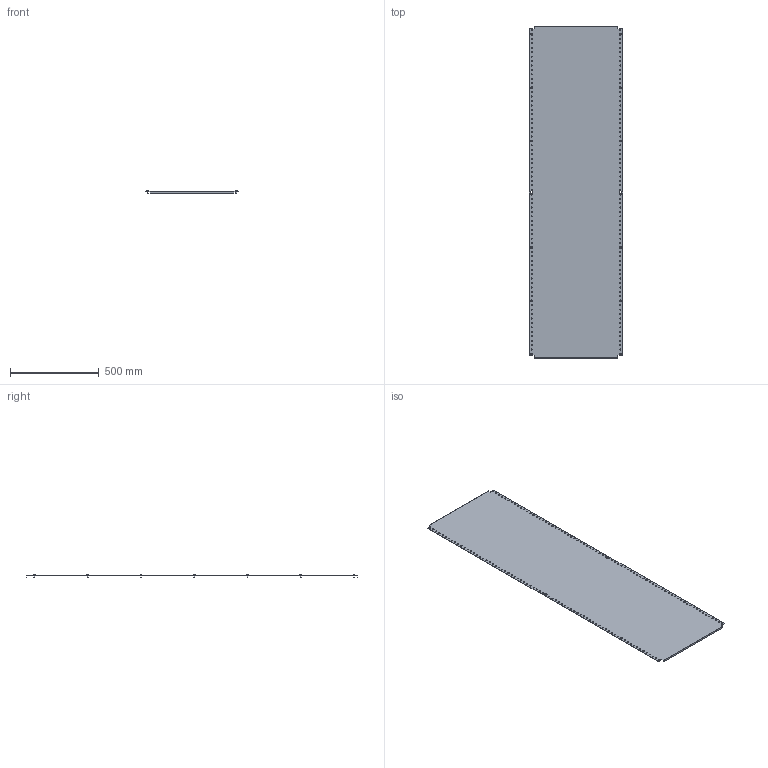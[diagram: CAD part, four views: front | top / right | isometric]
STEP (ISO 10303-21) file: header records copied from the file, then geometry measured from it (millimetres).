
FILE_DESCRIPTION (( 'STEP AP203' ), '1' );
FILE_NAME ('R6MP2060.STEP', '2025-03-28T12:12:41', ( '' ), ( '' ), 'SwSTEP 2.0', 'SolidWorks 2022', '' );
FILE_SCHEMA (( 'CONFIG_CONTROL_DESIGN' ));
Length unit declared in the file: millimetre
Products named in the file (3): RB.3293.00.00.0_-27; M5x12 DIN 7500 C Torx Zinc_stright; R6MP2060
Assembly tree (15 placements, depth 2):
  R6MP2060
    RB.3293.00.00.0_-27
    M5x12 DIN 7500 C Torx Zinc_stright  x14
Bounding box: 525 x 1870 x 15.56 mm (x, y, z)
Volume: 1774741.4 mm3; surface area: 1985560.7 mm2
Topology: 15 solids, 15 shells, 406 faces, 960 edges, 598 vertices
Faces by surface type: cylinder 180, plane 142, torus 28, cone 28, sphere 14, bspline 14
Full cylindrical faces by diameter (mm): 5 x14, 6.5 x148, 9.5 x14
Entity records: 7365 total; most frequent: CARTESIAN_POINT 1206, DIRECTION 1152, ORIENTED_EDGE 824, EDGE_LOOP 654, AXIS2_PLACEMENT_3D 532, EDGE_CURVE 412, VERTEX_POINT 374, FACE_OUTER_BOUND 352
